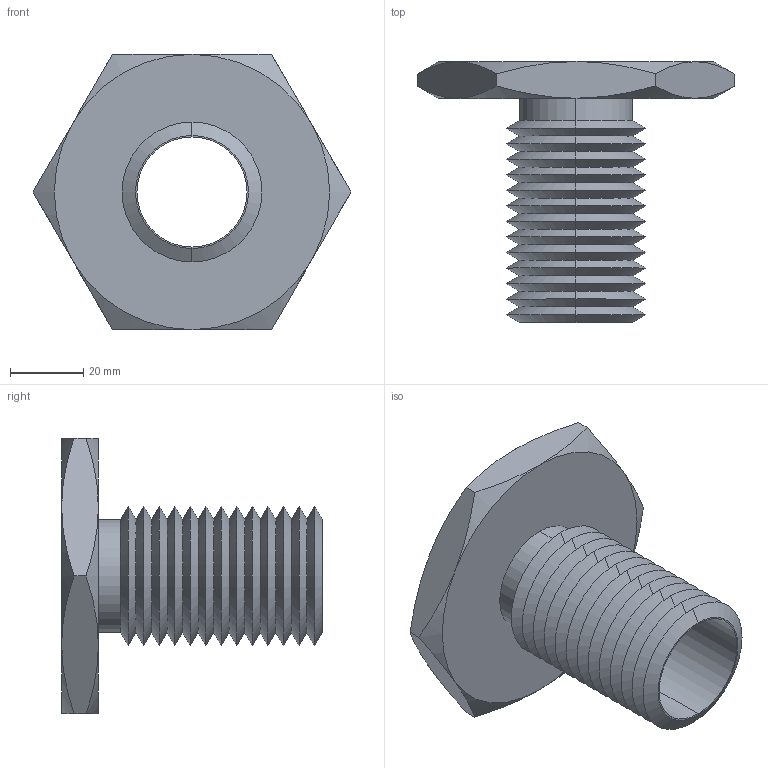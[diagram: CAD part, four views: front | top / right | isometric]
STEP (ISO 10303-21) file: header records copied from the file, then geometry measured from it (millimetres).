
FILE_DESCRIPTION (( 'STEP AP203' ), '1' );
FILE_NAME ('63302.W5150_M30x3,5.step', '2013-12-08T11:46:29', ( 'User' ), ( '' ), 'SwSTEP 2.0', 'SolidWorks 2009', '' );
FILE_SCHEMA (( 'CONFIG_CONTROL_DESIGN' ));
Length unit declared in the file: millimetre
Products named in the file (1): 63302.W5150_M30x3,5
Bounding box: 86.6 x 71 x 75 mm (x, y, z)
Volume: 52869 mm3; surface area: 29464.1 mm2
Topology: 1 solids, 1 shells, 79 faces, 162 edges, 86 vertices
Faces by surface type: cone 66, plane 9, cylinder 4
Entity records: 2239 total; most frequent: CARTESIAN_POINT 512, DIRECTION 372, ORIENTED_EDGE 324, EDGE_CURVE 162, AXIS2_PLACEMENT_3D 154, VERTEX_POINT 86, EDGE_LOOP 82, ADVANCED_FACE 79
